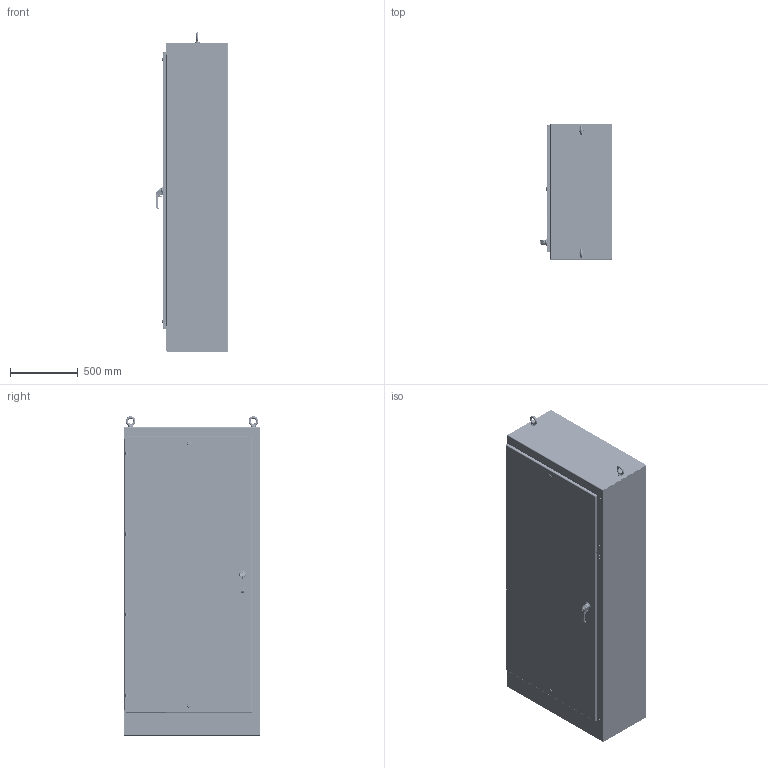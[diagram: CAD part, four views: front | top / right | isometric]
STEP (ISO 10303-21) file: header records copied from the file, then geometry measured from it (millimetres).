
FILE_DESCRIPTION((''),'2;1');
FILE_NAME('MODEL-213_ASM','2026-06-17T12:40:19',('andrew.knowlton'),('SAGINAW CONTROL & ENGINEERING'),'CREO PARAMETRIC BY PTC INC, 2021284','CREO PARAMETRIC BY PTC INC, 2021284','');
FILE_SCHEMA(('AUTOMOTIVE_DESIGN { 1 0 10303 214 1 1 1 1 }'));
Length unit declared in the file: inch
Products named in the file (70): MODEL-213-R-SD; MODEL-213-BTM; MODEL-213-TP; MODEL-213-BCK; MODEL-213-L-SD; MODEL-213-DR; 100837; 111267; 100882; 100953_SCREW_MTG; 100953_PADLOCK_CATCH; 100953_SCREW_LARGE; 100953_INSERT_SHAFT; 100953_INSERT_PCH; 100953_GASKET; 100953_O-RING; 100953_BASE; 100953_SPRING; 100953_HANDLE; 100953_CAM_SHAFT; 100953_HANDLE_ASM; 100953_CAM_ADAPTER; 100953_EARTH_NUT; 100953_FLANGE_NUT; 100953_CAM_NUT; 100953_CP_INSERT; 100953_SPRING_CAM; 100953_TORSION_SPRING; 100953_SCREW_INSERT; 100953_ASM; 102237; 100030; 102237_ASM; MODEL-213-ROD-UPR; 128146; 128145; 128144; 102482; MODEL-213-ROD-UPR_ASM; 128143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
Assembly tree (137 placements, depth 5):
  MODEL-213_ASM
    MODEL-213-R-SD
    MODEL-213-BTM
    MODEL-213-TP
    MODEL-213-BCK
    MODEL-213-L-SD
    MODEL-213-DOOR-ASSY_ASM
      MODEL-213-DR
      100837  x7
      111267
      100882  x12
      100953_ASM
        100953_SCREW_MTG
        100953_PADLOCK_CATCH
        100953_SCREW_LARGE  x2
        100953_INSERT_SHAFT
        100953_INSERT_PCH
        100953_GASKET
        100953_O-RING
        100953_BASE
        100953_SPRING
        100953_HANDLE_ASM
          100953_HANDLE
          100953_CAM_SHAFT
        100953_CAM_ADAPTER
        100953_EARTH_NUT
        100953_FLANGE_NUT
        100953_CAM_NUT
        100953_CP_INSERT
        100953_SPRING_CAM
        100953_TORSION_SPRING
        100953_SCREW_INSERT
      102237_ASM
        102237
        100030  x2
      MODEL-213-ROD-UPR_ASM
        MODEL-213-ROD-UPR
        128146
        128145
        128144
        102482  x2
      128143  x2
      112504  x2
      MODEL-213-ROD-LWR_ASM
        MODEL-213-ROD-LWR
        128146
        128145
        128144
        102482  x2
      MODEL-213-PR-GSKT
      113885_ASM  x2
        113885_SHAFT
        113885_INSERT
        113885_CAM_30MM
        113885_NUT
        113885_SCREW
      128258_ASM  x4
        128258
      126395  x4
      102483  x4
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Bounding box: 535.27 x 1003.3 x 2365.04 mm (x, y, z)
Volume: 28571432.4 mm3; surface area: 20630028.9 mm2
Topology: 146 solids, 146 shells, 13260 faces, 33768 edges, 20822 vertices
Faces by surface type: plane 4704, cylinder 3432, bspline 3050, torus 974, cone 732, sphere 338, extrusion 30
Entity records: 382474 total; most frequent: CARTESIAN_POINT 153940, ORIENTED_EDGE 34796, DIRECTION 31529, PRESENTATION_STYLE_ASSIGNMENT 18118, STYLED_ITEM 17836, EDGE_CURVE 17398, CURVE_STYLE 17188, AXIS2_PLACEMENT_3D 11692
